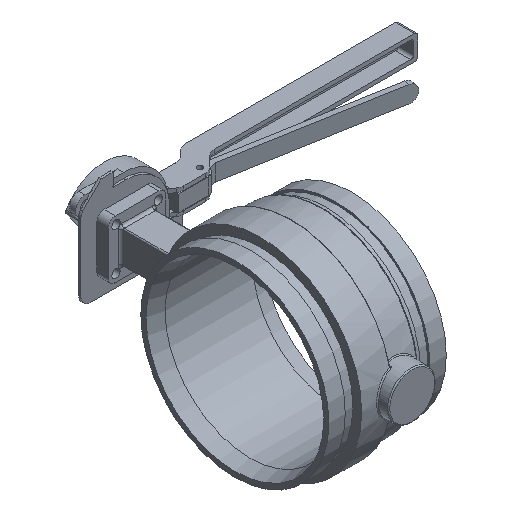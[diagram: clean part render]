
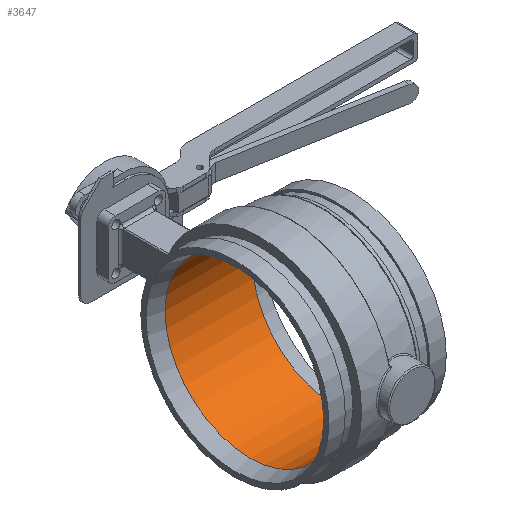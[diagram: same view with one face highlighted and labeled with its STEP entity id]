
A CAD part, isometric view. The second image highlights one B-rep face of the part: STEP entity #3647.
In plain terms, the highlighted cylindrical face has radius 98.806 mm (diameter 197.612 mm), a full revolution.
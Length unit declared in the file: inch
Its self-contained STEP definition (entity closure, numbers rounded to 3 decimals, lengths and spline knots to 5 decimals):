
#399=FACE_OUTER_BOUND('',#608,.T.);
#608=EDGE_LOOP('',(#2722,#2723,#2724,#2725,#2726,#2727));
#792=LINE('',#6581,#1034);
#1034=VECTOR('',#4779,3.89);
#1306=CIRCLE('',#4047,3.89);
#1309=CIRCLE('',#4050,3.89);
#1328=CIRCLE('',#4080,3.89);
#1329=CIRCLE('',#4081,3.89);
#1570=VERTEX_POINT('',#6515);
#1571=VERTEX_POINT('',#6516);
#1592=VERTEX_POINT('',#6575);
#1593=VERTEX_POINT('',#6577);
#1971=EDGE_CURVE('',#1570,#1571,#1306,.T.);
#1975=EDGE_CURVE('',#1571,#1570,#1309,.T.);
#1999=EDGE_CURVE('',#1593,#1592,#1328,.T.);
#2000=EDGE_CURVE('',#1592,#1593,#1329,.T.);
#2001=EDGE_CURVE('',#1592,#1571,#792,.T.);
#2722=ORIENTED_EDGE('',*,*,#1999,.T.);
#2723=ORIENTED_EDGE('',*,*,#2001,.T.);
#2724=ORIENTED_EDGE('',*,*,#1971,.F.);
#2725=ORIENTED_EDGE('',*,*,#1975,.F.);
#2726=ORIENTED_EDGE('',*,*,#2001,.F.);
#2727=ORIENTED_EDGE('',*,*,#2000,.T.);
#3304=CYLINDRICAL_SURFACE('',#4082,3.89);
#3647=ADVANCED_FACE('',(#399),#3304,.F.);
#4047=AXIS2_PLACEMENT_3D('',#6517,#4701,#4702);
#4050=AXIS2_PLACEMENT_3D('',#6523,#4708,#4709);
#4080=AXIS2_PLACEMENT_3D('',#6578,#4773,#4774);
#4081=AXIS2_PLACEMENT_3D('',#6579,#4775,#4776);
#4082=AXIS2_PLACEMENT_3D('',#6580,#4777,#4778);
#4701=DIRECTION('center_axis',(0.,0.,-1.));
#4702=DIRECTION('ref_axis',(1.,0.,0.));
#4708=DIRECTION('center_axis',(0.,0.,-1.));
#4709=DIRECTION('ref_axis',(1.,0.,0.));
#4773=DIRECTION('center_axis',(0.,0.,-1.));
#4774=DIRECTION('ref_axis',(1.,0.,0.));
#4775=DIRECTION('center_axis',(0.,0.,-1.));
#4776=DIRECTION('ref_axis',(1.,0.,0.));
#4777=DIRECTION('center_axis',(0.,0.,-1.));
#4778=DIRECTION('ref_axis',(0.,1.,0.));
#4779=DIRECTION('',(0.,0.,1.));
#6515=CARTESIAN_POINT('',(0.,3.89,2.31));
#6516=CARTESIAN_POINT('',(0.,-3.89,2.31));
#6517=CARTESIAN_POINT('Origin',(0.,0.,2.31));
#6523=CARTESIAN_POINT('Origin',(0.,0.,2.31));
#6575=CARTESIAN_POINT('',(0.,-3.89,-1.69));
#6577=CARTESIAN_POINT('',(0.,3.89,-1.69));
#6578=CARTESIAN_POINT('Origin',(0.,0.,-1.69));
#6579=CARTESIAN_POINT('Origin',(0.,0.,-1.69));
#6580=CARTESIAN_POINT('Origin',(0.,0.,-0.69));
#6581=CARTESIAN_POINT('',(0.,-3.89,-0.69));
